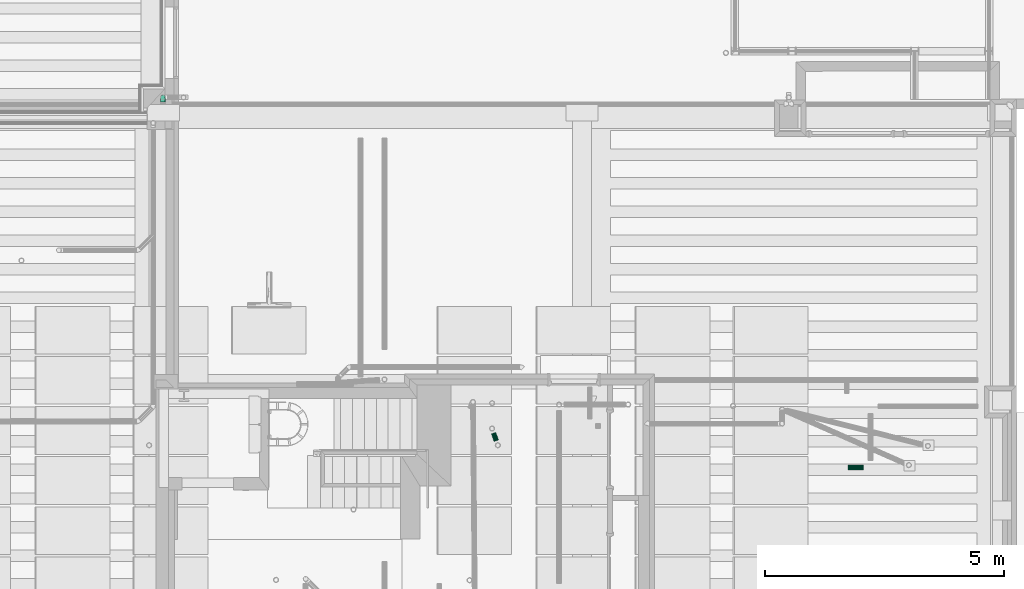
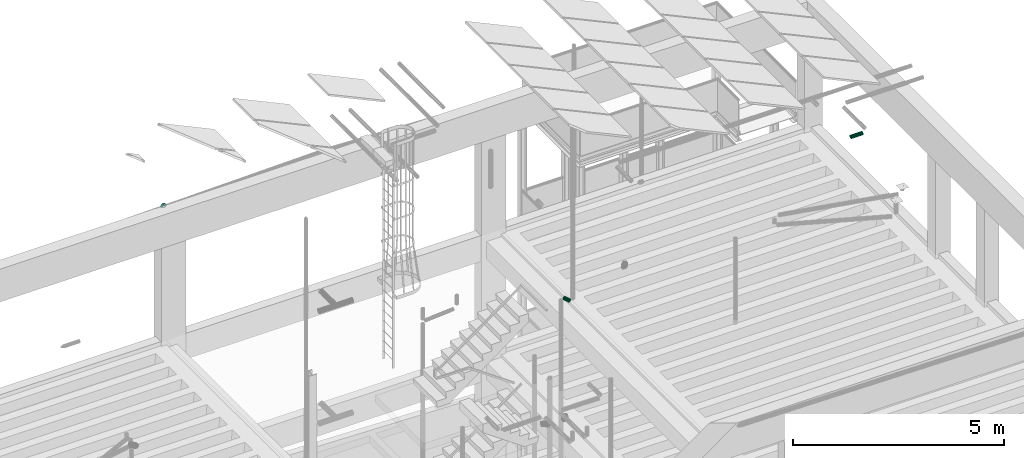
# One storey, part 94 of 108: 2 flow segments, 1 flow fitting.
"""IFC2X3 building model written with IfcOpenShell, lengths in metres."""

from ifc_helpers import new_model, entity, si_unit, converted_unit, derived_unit, money_unit, direction, frame, origin_with_axes, place, context, subcontext, project, spatial, open_shell, faceted_brep, surface_model, material, type_object, element, save


model = new_model("IFC2X3")

# Units and contexts
model_context = context("Model", 3, precision=1e-05, world=origin_with_axes(), true_north=direction((0.0, 1.0)))
body_context = subcontext(model_context, "Body", "Model", "MODEL_VIEW", scale=1.0)
ifc_project = project(units=[si_unit("LENGTHUNIT", "METRE"), si_unit("AREAUNIT", "SQUARE_METRE"), si_unit("VOLUMEUNIT", "CUBIC_METRE"), si_unit("ABSORBEDDOSEUNIT", "GRAY"), si_unit("AMOUNTOFSUBSTANCEUNIT", "MOLE"), si_unit("DOSEEQUIVALENTUNIT", "SIEVERT"), si_unit("ELECTRICCAPACITANCEUNIT", "FARAD"), si_unit("ELECTRICCHARGEUNIT", "COULOMB"), si_unit("ELECTRICCONDUCTANCEUNIT", "SIEMENS"), si_unit("ELECTRICCURRENTUNIT", "AMPERE"), si_unit("ELECTRICRESISTANCEUNIT", "OHM"), si_unit("ELECTRICVOLTAGEUNIT", "VOLT"), si_unit("ENERGYUNIT", "JOULE"), si_unit("FORCEUNIT", "NEWTON"), si_unit("FREQUENCYUNIT", "HERTZ"), si_unit("ILLUMINANCEUNIT", "LUX"), si_unit("INDUCTANCEUNIT", "HENRY"), si_unit("LUMINOUSFLUXUNIT", "LUMEN"), si_unit("LUMINOUSINTENSITYUNIT", "CANDELA"), si_unit("MAGNETICFLUXDENSITYUNIT", "TESLA"), si_unit("MAGNETICFLUXUNIT", "WEBER"), si_unit("MASSUNIT", "GRAM"), converted_unit("PLANEANGLEUNIT", "degree", entity("IfcReal", 0.0174532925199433), si_unit("PLANEANGLEUNIT", "RADIAN"), dimensions=[0, 0, 0, 0, 0, 0, 0]), si_unit("POWERUNIT", "WATT"), si_unit("PRESSUREUNIT", "PASCAL"), si_unit("RADIOACTIVITYUNIT", "BECQUEREL"), si_unit("SOLIDANGLEUNIT", "STERADIAN"), si_unit("THERMODYNAMICTEMPERATUREUNIT", "KELVIN"), si_unit("TIMEUNIT", "SECOND"), derived_unit("ACCELERATIONUNIT", [(si_unit("LENGTHUNIT", "METRE"), 1), (si_unit("TIMEUNIT", "SECOND"), -2)]), derived_unit("ANGULARVELOCITYUNIT", [(converted_unit("PLANEANGLEUNIT", "degree", entity("IfcReal", 0.0174532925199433), si_unit("PLANEANGLEUNIT", "RADIAN"), dimensions=[0, 0, 0, 0, 0, 0, 0]), 1), (si_unit("TIMEUNIT", "SECOND"), -1)]), derived_unit("CURVATUREUNIT", [(converted_unit("PLANEANGLEUNIT", "degree", entity("IfcReal", 0.0174532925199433), si_unit("PLANEANGLEUNIT", "RADIAN"), dimensions=[0, 0, 0, 0, 0, 0, 0]), 1), (si_unit("LENGTHUNIT", "METRE"), -1)]), derived_unit("DYNAMICVISCOSITYUNIT", [(si_unit("PRESSUREUNIT", "PASCAL"), 1), (si_unit("TIMEUNIT", "SECOND"), 1)]), derived_unit("HEATFLUXDENSITYUNIT", [(si_unit("POWERUNIT", "WATT"), 1), (si_unit("LENGTHUNIT", "METRE"), -2)]), derived_unit("HEATINGVALUEUNIT", [(si_unit("ENERGYUNIT", "JOULE"), 1), (si_unit("MASSUNIT", "GRAM"), -1)]), derived_unit("INTEGERCOUNTRATEUNIT", [(si_unit("TIMEUNIT", "SECOND"), -1)]), derived_unit("IONCONCENTRATIONUNIT", [(si_unit("MASSUNIT", "GRAM"), 1), (si_unit("VOLUMEUNIT", "CUBIC_METRE"), -1)]), derived_unit("ISOTHERMALMOISTURECAPACITYUNIT", [(si_unit("VOLUMEUNIT", "CUBIC_METRE"), 1), (si_unit("MASSUNIT", "GRAM"), -1)]), derived_unit("KINEMATICVISCOSITYUNIT", [(si_unit("AREAUNIT", "SQUARE_METRE"), 1), (si_unit("TIMEUNIT", "SECOND"), -1)]), derived_unit("LINEARFORCEUNIT", [(si_unit("FORCEUNIT", "NEWTON"), 1), (si_unit("LENGTHUNIT", "METRE"), -1)]), derived_unit("LINEARMOMENTUNIT", [(si_unit("FORCEUNIT", "NEWTON"), 1), (si_unit("LENGTHUNIT", "METRE"), -1)]), derived_unit("LINEARSTIFFNESSUNIT", [(si_unit("FORCEUNIT", "NEWTON"), 1), (si_unit("LENGTHUNIT", "METRE"), -1)]), derived_unit("LINEARVELOCITYUNIT", [(si_unit("LENGTHUNIT", "METRE"), 1), (si_unit("TIMEUNIT", "SECOND"), -1)]), derived_unit("LUMINOUSINTENSITYDISTRIBUTIONUNIT", [(si_unit("LUMINOUSINTENSITYUNIT", "CANDELA"), 1), (si_unit("LUMINOUSFLUXUNIT", "LUMEN"), -1)]), derived_unit("MASSDENSITYUNIT", [(si_unit("MASSUNIT", "GRAM"), 1), (si_unit("VOLUMEUNIT", "CUBIC_METRE"), -1)]), derived_unit("MASSFLOWRATEUNIT", [(si_unit("MASSUNIT", "GRAM"), 1), (si_unit("TIMEUNIT", "SECOND"), -1)]), derived_unit("MASSPERLENGTHUNIT", [(si_unit("MASSUNIT", "GRAM"), 1), (si_unit("LENGTHUNIT", "METRE"), -1)]), derived_unit("MODULUSOFELASTICITYUNIT", [(si_unit("FORCEUNIT", "NEWTON"), 1), (si_unit("AREAUNIT", "SQUARE_METRE"), -1)]), derived_unit("MODULUSOFLINEARSUBGRADEREACTIONUNIT", [(si_unit("FORCEUNIT", "NEWTON"), 1), (si_unit("LENGTHUNIT", "METRE"), -2)]), derived_unit("MODULUSOFROTATIONALSUBGRADEREACTIONUNIT", [(si_unit("FORCEUNIT", "NEWTON"), 1), (si_unit("LENGTHUNIT", "METRE"), 1)]), derived_unit("MODULUSOFSUBGRADEREACTIONUNIT", [(si_unit("FORCEUNIT", "NEWTON"), 1), (si_unit("VOLUMEUNIT", "CUBIC_METRE"), -1)]), derived_unit("MOISTUREDIFFUSIVITYUNIT", [(si_unit("VOLUMEUNIT", "CUBIC_METRE"), 1), (si_unit("TIMEUNIT", "SECOND"), -1)]), derived_unit("MOLECULARWEIGHTUNIT", [(si_unit("MASSUNIT", "GRAM"), 1), (si_unit("AMOUNTOFSUBSTANCEUNIT", "MOLE"), -1)]), derived_unit("PLANARFORCEUNIT", [(si_unit("FORCEUNIT", "NEWTON"), 1), (si_unit("LENGTHUNIT", "METRE"), -2)]), derived_unit("ROTATIONALFREQUENCYUNIT", [(si_unit("TIMEUNIT", "SECOND"), -1)]), derived_unit("ROTATIONALMASSUNIT", [(si_unit("MASSUNIT", "GRAM"), 1), (si_unit("LENGTHUNIT", "METRE"), 2)]), derived_unit("ROTATIONALSTIFFNESSUNIT", [(si_unit("FORCEUNIT", "NEWTON"), 1), (si_unit("LENGTHUNIT", "METRE"), 1), (converted_unit("PLANEANGLEUNIT", "degree", entity("IfcReal", 0.0174532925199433), si_unit("PLANEANGLEUNIT", "RADIAN"), dimensions=[0, 0, 0, 0, 0, 0, 0]), -1)]), derived_unit("SECTIONAREAINTEGRALUNIT", [(si_unit("LENGTHUNIT", "METRE"), 5)]), derived_unit("SECTIONMODULUSUNIT", [(si_unit("LENGTHUNIT", "METRE"), 3)]), derived_unit("SHEARMODULUSUNIT", [(si_unit("FORCEUNIT", "NEWTON"), 1), (si_unit("AREAUNIT", "SQUARE_METRE"), -1)]), derived_unit("SOUNDPOWERUNIT", [(si_unit("ENERGYUNIT", "JOULE"), 1), (si_unit("TIMEUNIT", "SECOND"), -1)]), derived_unit("SPECIFICHEATCAPACITYUNIT", [(si_unit("FORCEUNIT", "NEWTON"), 1), (si_unit("MASSUNIT", "GRAM"), -1), (si_unit("THERMODYNAMICTEMPERATUREUNIT", "KELVIN"), -1)]), derived_unit("TEMPERATUREGRADIENTUNIT", [(si_unit("THERMODYNAMICTEMPERATUREUNIT", "KELVIN"), 1), (si_unit("LENGTHUNIT", "METRE"), -1)]), derived_unit("THERMALADMITTANCEUNIT", [(si_unit("POWERUNIT", "WATT"), 1), (si_unit("AREAUNIT", "SQUARE_METRE"), -1), (si_unit("THERMODYNAMICTEMPERATUREUNIT", "KELVIN"), -1)]), derived_unit("THERMALCONDUCTANCEUNIT", [(si_unit("POWERUNIT", "WATT"), 1), (si_unit("LENGTHUNIT", "METRE"), -1), (si_unit("THERMODYNAMICTEMPERATUREUNIT", "KELVIN"), -1)]), derived_unit("THERMALEXPANSIONCOEFFICIENTUNIT", [(si_unit("THERMODYNAMICTEMPERATUREUNIT", "KELVIN"), -1)]), derived_unit("THERMALRESISTANCEUNIT", [(si_unit("AREAUNIT", "SQUARE_METRE"), 1), (si_unit("POWERUNIT", "WATT"), -1)]), derived_unit("THERMALTRANSMITTANCEUNIT", [(si_unit("POWERUNIT", "WATT"), 1), (si_unit("AREAUNIT", "SQUARE_METRE"), -1), (si_unit("THERMODYNAMICTEMPERATUREUNIT", "KELVIN"), -1)]), derived_unit("TORQUEUNIT", [(si_unit("FORCEUNIT", "NEWTON"), 1), (si_unit("LENGTHUNIT", "METRE"), 1)]), derived_unit("VAPORPERMEABILITYUNIT", [(si_unit("MASSUNIT", "GRAM"), 1), (si_unit("TIMEUNIT", "SECOND"), -1)]), derived_unit("VOLUMETRICFLOWRATEUNIT", [(si_unit("VOLUMEUNIT", "CUBIC_METRE"), 1), (si_unit("TIMEUNIT", "SECOND"), -1)]), derived_unit("WARPINGCONSTANTUNIT", [(si_unit("LENGTHUNIT", "METRE"), 6)]), derived_unit("WARPINGMOMENTUNIT", [(si_unit("FORCEUNIT", "NEWTON"), 1), (si_unit("LENGTHUNIT", "METRE"), 2)]), money_unit("GBP")], contexts=[model_context])

# Site, building, storey
site_placement = place(None, origin_with_axes())
site = spatial("IfcSite", under=ifc_project, at=site_placement, Name="Site", CompositionType="ELEMENT")
building_placement = place(site_placement, origin_with_axes())
building = spatial("IfcBuilding", under=site, at=building_placement, Name="Building01", CompositionType="ELEMENT")
storey_placement = place(building_placement, origin_with_axes())
storey = spatial("IfcBuildingStorey", under=building, at=storey_placement, Name="GF", CompositionType="ELEMENT", Elevation=0.0)

# Flow segments
ifc_material_1 = material(Name="M_BSUK_Ventilation")
duct_segment_type = type_object("IfcDuctSegmentType", Name="M-RoundDuct", PredefinedType="RIGIDSEGMENT")
flow_segment_1_placement = place(storey_placement, frame((23.78, 7.199939, 17.28), z_axis=(0.0, 0.0, 1.0), x_axis=(-1.0, 0.0, 0.0)))
element("IfcFlowSegment", 1, at=flow_segment_1_placement, inside=storey, type_object=duct_segment_type, material=ifc_material_1, Name="M-RoundDuct", ObjectType="M-RoundDuct", context=body_context, shape_type="Brep", body=[
    faceted_brep([(0.32063, 0.0, -0.05), (0.0, 0.0, -0.05), (0.0, 0.019134, -0.046194), (0.32063, 0.019134, -0.046194), (0.0, 0.035355, -0.035355), (0.32063, 0.035355, -0.035355), (0.0, 0.046194, -0.019134), (0.32063, 0.046194, -0.019134), (0.0, 0.05, 0.0), (0.32063, 0.05, 0.0), (0.0, 0.046194, 0.019134), (0.32063, 0.046194, 0.019134), (0.0, 0.035355, 0.035355), (0.32063, 0.035355, 0.035355), (0.0, 0.019134, 0.046194), (0.32063, 0.019134, 0.046194), (0.0, 0.0, 0.05), (0.32063, 0.0, 0.05), (0.0, -0.019134, 0.046194), (0.32063, -0.019134, 0.046194), (0.0, -0.035355, 0.035355), (0.32063, -0.035355, 0.035355), (0.0, -0.046194, 0.019134), (0.32063, -0.046194, 0.019134), (0.0, -0.05, 0.0), (0.32063, -0.05, 0.0), (0.0, -0.046194, -0.019134), (0.32063, -0.046194, -0.019134), (0.0, -0.035355, -0.035355), (0.32063, -0.035355, -0.035355), (0.0, -0.019134, -0.046194), (0.32063, -0.019134, -0.046194)], [[[0, 1, 2, 3]], [[3, 2, 4, 5]], [[5, 4, 6, 7]], [[7, 6, 8, 9]], [[9, 8, 10, 11]], [[11, 10, 12, 13]], [[13, 12, 14, 15]], [[15, 14, 16, 17]], [[17, 16, 18, 19]], [[19, 18, 20, 21]], [[21, 20, 22, 23]], [[23, 22, 24, 25]], [[25, 24, 26, 27]], [[27, 26, 28, 29]], [[29, 28, 30, 31]], [[31, 30, 1, 0]]]),
])
ifc_material_2 = material(Name="M_BSUK_ColdWater")
pipe_segment_type = type_object("IfcPipeSegmentType", Name="M-BmpStraightpipe-DefaultPipe", PredefinedType="RIGIDSEGMENT")
flow_segment_2_placement = place(storey_placement, frame((16.09237, 7.758319, 14.787509), z_axis=(-0.94641689, -0.32294749, 0.0), x_axis=(-0.32292226, 0.94634296, -0.01249902)))
element("IfcFlowSegment", 2, at=flow_segment_2_placement, inside=storey, type_object=pipe_segment_type, material=ifc_material_2, Name="M-BmpStraightpipe-DefaultPipe", ObjectType="M-BmpStraightpipe-DefaultPipe", context=body_context, shape_type="Brep", body=[
    faceted_brep([(0.172177, 0.0, -0.05), (0.0, 0.0, -0.05), (0.0, 0.019134, -0.046194), (0.172177, 0.019134, -0.046194), (0.0, 0.035355, -0.035355), (0.172177, 0.035355, -0.035355), (0.0, 0.046194, -0.019134), (0.172177, 0.046194, -0.019134), (0.0, 0.05, 0.0), (0.172177, 0.05, 0.0), (0.0, 0.046194, 0.019134), (0.172177, 0.046194, 0.019134), (0.0, 0.035355, 0.035355), (0.172177, 0.035355, 0.035355), (0.0, 0.019134, 0.046194), (0.172177, 0.019134, 0.046194), (0.0, 0.0, 0.05), (0.172177, 0.0, 0.05), (0.0, -0.019134, 0.046194), (0.172177, -0.019134, 0.046194), (0.0, -0.035355, 0.035355), (0.172177, -0.035355, 0.035355), (0.0, -0.046194, 0.019134), (0.172177, -0.046194, 0.019134), (0.0, -0.05, 0.0), (0.172177, -0.05, 0.0), (0.0, -0.046194, -0.019134), (0.172177, -0.046194, -0.019134), (0.0, -0.035355, -0.035355), (0.172177, -0.035355, -0.035355), (0.0, -0.019134, -0.046194), (0.172177, -0.019134, -0.046194)], [[[0, 1, 2, 3]], [[3, 2, 4, 5]], [[5, 4, 6, 7]], [[7, 6, 8, 9]], [[9, 8, 10, 11]], [[11, 10, 12, 13]], [[13, 12, 14, 15]], [[15, 14, 16, 17]], [[17, 16, 18, 19]], [[19, 18, 20, 21]], [[21, 20, 22, 23]], [[23, 22, 24, 25]], [[25, 24, 26, 27]], [[27, 26, 28, 29]], [[29, 28, 30, 31]], [[31, 30, 1, 0]]]),
])

# Flow fitting
pipe_fitting_type = type_object("IfcPipeFittingType", Name="M-BmpElbow-DefaultElbow", PredefinedType="BEND")
flow_fitting_placement = place(storey_placement, frame((9.112744, 14.95, 15.576024), z_axis=(0.0, 1.0, 0.0), x_axis=(0.0, 0.0, -1.0)))
element("IfcFlowFitting", 3, at=flow_fitting_placement, inside=storey, type_object=pipe_fitting_type, material=ifc_material_2, Name="M-BmpElbow-DefaultElbow", ObjectType="M-BmpElbow-DefaultElbow", context=body_context, shape_type="SurfaceModel", body=[
    surface_model("IfcShellBasedSurfaceModel", [(-0.008009, -0.01349, -0.048768), (0.0, -0.01349, -0.048146), (0.0, 0.0, -0.05), (-0.007723, 0.0, -0.0506), (-0.015826, -0.01349, -0.05062), (-0.015261, 0.0, -0.052386), (-0.023264, -0.01349, -0.053657), (-0.022432, 0.0, -0.055314), (-0.030143, -0.01349, -0.057807), (-0.029065, 0.0, -0.059315), (-0.036298, -0.01349, -0.062969), (-0.035, 0.0, -0.064293), (-0.041582, -0.01349, -0.06902), (-0.040095, 0.0, -0.070127), (-0.045868, -0.01349, -0.075814), (-0.044228, 0.0, -0.076679), (-0.049054, -0.01349, -0.083189), (-0.0473, 0.0, -0.08379), (-0.051061, -0.01349, -0.090968), (-0.049236, 0.0, -0.091291), (-0.051844, -0.01349, -0.098963), (-0.04999, 0.0, -0.099), (-0.008847, -0.025979, -0.043408), (0.0, -0.025979, -0.042721), (-0.017482, -0.025979, -0.045454), (-0.025697, -0.025979, -0.048809), (-0.033296, -0.025979, -0.053392), (-0.040095, -0.025979, -0.059095), (-0.045932, -0.025979, -0.065779), (-0.050667, -0.025979, -0.073284), (-0.054185, -0.025979, -0.081431), (-0.056403, -0.025979, -0.090023), (-0.057268, -0.025979, -0.098855), (-0.010175, -0.036542, -0.034918), (0.0, -0.036542, -0.034128), (-0.020105, -0.036542, -0.037271), (-0.029553, -0.036542, -0.041129), (-0.038291, -0.036542, -0.0464), (-0.046111, -0.036542, -0.052958), (-0.052823, -0.036542, -0.060645), (-0.058268, -0.036542, -0.069276), (-0.062315, -0.036542, -0.078645), (-0.064865, -0.036542, -0.088526), (-0.065859, -0.036542, -0.098683), (-0.011893, -0.044394, -0.023927), (0.0, -0.044394, -0.023003), (-0.0235, -0.044394, -0.026677), (-0.034544, -0.044394, -0.031187), (-0.044758, -0.044394, -0.037348), (-0.053898, -0.044394, -0.045013), (-0.061744, -0.044394, -0.053998), (-0.068109, -0.044394, -0.064087), (-0.072838, -0.044394, -0.075038), (-0.07582, -0.044394, -0.086588), (-0.076981, -0.044394, -0.09846), (-0.013875, -0.048954, -0.011251), (0.0, -0.048954, -0.010173), (-0.027416, -0.048954, -0.014459), (-0.0403, -0.048954, -0.01972), (-0.052216, -0.048954, -0.026908), (-0.062879, -0.048954, -0.035851), (-0.072033, -0.048954, -0.046333), (-0.079458, -0.048954, -0.058103), (-0.084976, -0.048954, -0.070879), (-0.088454, -0.048954, -0.084353), (-0.089809, -0.048954, -0.098204), (-0.015973, -0.049883, 0.002171), (0.0, -0.049883, 0.003412), (-0.031562, -0.049883, -0.001522), (-0.046394, -0.049883, -0.007579), (-0.060113, -0.049883, -0.015854), (-0.072389, -0.049883, -0.026149), (-0.082927, -0.049883, -0.038216), (-0.091475, -0.049883, -0.051767), (-0.097827, -0.049883, -0.066475), (-0.101831, -0.049883, -0.081987), (-0.103391, -0.049883, -0.097932), (-0.018032, -0.047113, 0.015343), (0.0, -0.047113, 0.016744), (-0.035632, -0.047113, 0.011174), (-0.052376, -0.047113, 0.004336), (-0.067863, -0.047113, -0.005006), (-0.081721, -0.047113, -0.016628), (-0.093618, -0.047113, -0.030251), (-0.103268, -0.047113, -0.045548), (-0.110439, -0.047113, -0.062153), (-0.114959, -0.047113, -0.079665), (-0.116721, -0.047113, -0.097665), (-0.0199, -0.040848, 0.027288), (0.0, -0.040848, 0.028834), (-0.039322, -0.040848, 0.022687), (-0.0578, -0.040848, 0.015141), (-0.074891, -0.040848, 0.004831), (-0.090184, -0.040848, -0.007994), (-0.103313, -0.040848, -0.023028), (-0.113962, -0.040848, -0.039909), (-0.121876, -0.040848, -0.058233), (-0.126865, -0.040848, -0.077559), (-0.128808, -0.040848, -0.097424), (-0.021437, -0.031554, 0.03712), (0.0, -0.031554, 0.038786), (-0.042359, -0.031554, 0.032163), (-0.062264, -0.031554, 0.024035), (-0.080675, -0.031554, 0.012929), (-0.09715, -0.031554, -0.000887), (-0.111293, -0.031554, -0.017083), (-0.122765, -0.031554, -0.035268), (-0.13129, -0.031554, -0.055007), (-0.136664, -0.031554, -0.075826), (-0.138758, -0.031554, -0.097225), (-0.022529, -0.01992, 0.04411), (0.0, -0.01992, 0.045861), (-0.044518, -0.01992, 0.038901), (-0.065438, -0.01992, 0.030358), (-0.084788, -0.01992, 0.018686), (-0.102103, -0.01992, 0.004165), (-0.116966, -0.01992, -0.012856), (-0.129023, -0.01992, -0.031968), (-0.137983, -0.01992, -0.052713), (-0.143631, -0.01992, -0.074593), (-0.145831, -0.01992, -0.097083), (-0.023097, -0.006808, 0.04774), (0.0, -0.006808, 0.049534), (-0.045639, -0.006808, 0.042399), (-0.067087, -0.006808, 0.033641), (-0.086924, -0.006808, 0.021675), (-0.104674, -0.006808, 0.006789), (-0.119912, -0.006808, -0.010661), (-0.132273, -0.006808, -0.030254), (-0.141458, -0.006808, -0.051522), (-0.147248, -0.006808, -0.073953), (-0.149504, -0.006808, -0.09701), (-0.023097, 0.006808, 0.04774), (0.0, 0.006808, 0.049534), (-0.045639, 0.006808, 0.042399), (-0.067087, 0.006808, 0.033641), (-0.086924, 0.006808, 0.021675), (-0.104674, 0.006808, 0.006789), (-0.119912, 0.006808, -0.010661), (-0.132273, 0.006808, -0.030254), (-0.141458, 0.006808, -0.051522), (-0.147248, 0.006808, -0.073953), (-0.149504, 0.006808, -0.09701), (-0.022529, 0.01992, 0.04411), (0.0, 0.01992, 0.045861), (-0.044518, 0.01992, 0.038901), (-0.065438, 0.01992, 0.030358), (-0.084788, 0.01992, 0.018686), (-0.102103, 0.01992, 0.004165), (-0.116966, 0.01992, -0.012856), (-0.129023, 0.01992, -0.031968), (-0.137983, 0.01992, -0.052713), (-0.143631, 0.01992, -0.074593), (-0.145831, 0.01992, -0.097083), (-0.021437, 0.031554, 0.03712), (0.0, 0.031554, 0.038786), (-0.042359, 0.031554, 0.032163), (-0.062264, 0.031554, 0.024035), (-0.080675, 0.031554, 0.012929), (-0.09715, 0.031554, -0.000887), (-0.111293, 0.031554, -0.017083), (-0.122765, 0.031554, -0.035268), (-0.13129, 0.031554, -0.055007), (-0.136664, 0.031554, -0.075826), (-0.138758, 0.031554, -0.097225), (-0.0199, 0.040848, 0.027288), (0.0, 0.040848, 0.028834), (-0.039322, 0.040848, 0.022687), (-0.0578, 0.040848, 0.015141), (-0.074891, 0.040848, 0.004831), (-0.090184, 0.040848, -0.007994), (-0.103313, 0.040848, -0.023028), (-0.113962, 0.040848, -0.039909), (-0.121876, 0.040848, -0.058233), (-0.126865, 0.040848, -0.077559), (-0.128808, 0.040848, -0.097424), (-0.018032, 0.047113, 0.015343), (0.0, 0.047113, 0.016744), (-0.035632, 0.047113, 0.011174), (-0.052376, 0.047113, 0.004336), (-0.067863, 0.047113, -0.005006), (-0.081721, 0.047113, -0.016628), (-0.093618, 0.047113, -0.030251), (-0.103268, 0.047113, -0.045548), (-0.110439, 0.047113, -0.062153), (-0.114959, 0.047113, -0.079665), (-0.116721, 0.047113, -0.097665), (-0.015973, 0.049883, 0.002171), (0.0, 0.049883, 0.003412), (-0.031562, 0.049883, -0.001522), (-0.046394, 0.049883, -0.007579), (-0.060113, 0.049883, -0.015854), (-0.072389, 0.049883, -0.026149), (-0.082927, 0.049883, -0.038216), (-0.091475, 0.049883, -0.051767), (-0.097827, 0.049883, -0.066475), (-0.101831, 0.049883, -0.081987), (-0.103391, 0.049883, -0.097932), (-0.013875, 0.048954, -0.011251), (0.0, 0.048954, -0.010173), (-0.027416, 0.048954, -0.014459), (-0.0403, 0.048954, -0.01972), (-0.052216, 0.048954, -0.026908), (-0.062879, 0.048954, -0.035851), (-0.072033, 0.048954, -0.046333), (-0.079458, 0.048954, -0.058103), (-0.084976, 0.048954, -0.070879), (-0.088454, 0.048954, -0.084353), (-0.089809, 0.048954, -0.098204), (-0.011893, 0.044394, -0.023927), (0.0, 0.044394, -0.023003), (-0.0235, 0.044394, -0.026677), (-0.034544, 0.044394, -0.031187), (-0.044758, 0.044394, -0.037348), (-0.053898, 0.044394, -0.045013), (-0.061744, 0.044394, -0.053998), (-0.068109, 0.044394, -0.064087), (-0.072838, 0.044394, -0.075038), (-0.07582, 0.044394, -0.086588), (-0.076981, 0.044394, -0.09846), (-0.010175, 0.036542, -0.034918), (0.0, 0.036542, -0.034128), (-0.020105, 0.036542, -0.037271), (-0.029553, 0.036542, -0.041129), (-0.038291, 0.036542, -0.0464), (-0.046111, 0.036542, -0.052958), (-0.052823, 0.036542, -0.060645), (-0.058268, 0.036542, -0.069276), (-0.062315, 0.036542, -0.078645), (-0.064865, 0.036542, -0.088526), (-0.065859, 0.036542, -0.098683), (-0.008847, 0.025979, -0.043408), (0.0, 0.025979, -0.042721), (-0.017482, 0.025979, -0.045454), (-0.025697, 0.025979, -0.048809), (-0.033296, 0.025979, -0.053392), (-0.040095, 0.025979, -0.059095), (-0.045932, 0.025979, -0.065779), (-0.050667, 0.025979, -0.073284), (-0.054185, 0.025979, -0.081431), (-0.056403, 0.025979, -0.090023), (-0.057268, 0.025979, -0.098855), (-0.008009, 0.01349, -0.048768), (0.0, 0.01349, -0.048146), (-0.015826, 0.01349, -0.05062), (-0.023264, 0.01349, -0.053657), (-0.030143, 0.01349, -0.057807), (-0.036298, 0.01349, -0.062969), (-0.041582, 0.01349, -0.06902), (-0.045868, 0.01349, -0.075814), (-0.049054, 0.01349, -0.083189), (-0.051061, 0.01349, -0.090968), (-0.051844, 0.01349, -0.098963)], [open_shell([[[0, 1, 2, 3]], [[4, 0, 3, 5]], [[6, 4, 5, 7]], [[8, 6, 7, 9]], [[10, 8, 9, 11]], [[12, 10, 11, 13]], [[14, 12, 13, 15]], [[16, 14, 15, 17]], [[18, 16, 17, 19]], [[20, 18, 19, 21]], [[22, 23, 1, 0]], [[24, 22, 0, 4]], [[25, 24, 4, 6]], [[26, 25, 6, 8]], [[27, 26, 8, 10]], [[28, 27, 10, 12]], [[29, 28, 12, 14]], [[30, 29, 14, 16]], [[31, 30, 16, 18]], [[32, 31, 18, 20]], [[33, 34, 23, 22]], [[35, 33, 22, 24]], [[36, 35, 24, 25]], [[37, 36, 25, 26]], [[38, 37, 26, 27]], [[39, 38, 27, 28]], [[40, 39, 28, 29]], [[41, 40, 29, 30]], [[42, 41, 30, 31]], [[43, 42, 31, 32]], [[44, 45, 34, 33]], [[46, 44, 33, 35]], [[47, 46, 35, 36]], [[48, 47, 36, 37]], [[49, 48, 37, 38]], [[50, 49, 38, 39]], [[51, 50, 39, 40]], [[52, 51, 40, 41]], [[53, 52, 41, 42]], [[54, 53, 42, 43]], [[55, 56, 45, 44]], [[57, 55, 44, 46]], [[58, 57, 46, 47]], [[59, 58, 47, 48]], [[60, 59, 48, 49]], [[61, 60, 49, 50]], [[62, 61, 50, 51]], [[63, 62, 51, 52]], [[64, 63, 52, 53]], [[65, 64, 53, 54]], [[66, 67, 56, 55]], [[68, 66, 55, 57]], [[69, 68, 57, 58]], [[70, 69, 58, 59]], [[71, 70, 59, 60]], [[72, 71, 60, 61]], [[73, 72, 61, 62]], [[74, 73, 62, 63]], [[75, 74, 63, 64]], [[76, 75, 64, 65]], [[77, 78, 67, 66]], [[79, 77, 66, 68]], [[80, 79, 68, 69]], [[81, 80, 69, 70]], [[82, 81, 70, 71]], [[83, 82, 71, 72]], [[84, 83, 72, 73]], [[85, 84, 73, 74]], [[86, 85, 74, 75]], [[87, 86, 75, 76]], [[88, 89, 78, 77]], [[90, 88, 77, 79]], [[91, 90, 79, 80]], [[92, 91, 80, 81]], [[93, 92, 81, 82]], [[94, 93, 82, 83]], [[95, 94, 83, 84]], [[96, 95, 84, 85]], [[97, 96, 85, 86]], [[98, 97, 86, 87]], [[99, 100, 89, 88]], [[101, 99, 88, 90]], [[102, 101, 90, 91]], [[103, 102, 91, 92]], [[104, 103, 92, 93]], [[105, 104, 93, 94]], [[106, 105, 94, 95]], [[107, 106, 95, 96]], [[108, 107, 96, 97]], [[109, 108, 97, 98]], [[110, 111, 100, 99]], [[112, 110, 99, 101]], [[113, 112, 101, 102]], [[114, 113, 102, 103]], [[115, 114, 103, 104]], [[116, 115, 104, 105]], [[117, 116, 105, 106]], [[118, 117, 106, 107]], [[119, 118, 107, 108]], [[120, 119, 108, 109]], [[121, 122, 111, 110]], [[123, 121, 110, 112]], [[124, 123, 112, 113]], [[125, 124, 113, 114]], [[126, 125, 114, 115]], [[127, 126, 115, 116]], [[128, 127, 116, 117]], [[129, 128, 117, 118]], [[130, 129, 118, 119]], [[131, 130, 119, 120]], [[132, 133, 122, 121]], [[134, 132, 121, 123]], [[135, 134, 123, 124]], [[136, 135, 124, 125]], [[137, 136, 125, 126]], [[138, 137, 126, 127]], [[139, 138, 127, 128]], [[140, 139, 128, 129]], [[141, 140, 129, 130]], [[142, 141, 130, 131]], [[143, 144, 133, 132]], [[145, 143, 132, 134]], [[146, 145, 134, 135]], [[147, 146, 135, 136]], [[148, 147, 136, 137]], [[149, 148, 137, 138]], [[150, 149, 138, 139]], [[151, 150, 139, 140]], [[152, 151, 140, 141]], [[153, 152, 141, 142]], [[154, 155, 144, 143]], [[156, 154, 143, 145]], [[157, 156, 145, 146]], [[158, 157, 146, 147]], [[159, 158, 147, 148]], [[160, 159, 148, 149]], [[161, 160, 149, 150]], [[162, 161, 150, 151]], [[163, 162, 151, 152]], [[164, 163, 152, 153]], [[165, 166, 155, 154]], [[167, 165, 154, 156]], [[168, 167, 156, 157]], [[169, 168, 157, 158]], [[170, 169, 158, 159]], [[171, 170, 159, 160]], [[172, 171, 160, 161]], [[173, 172, 161, 162]], [[174, 173, 162, 163]], [[175, 174, 163, 164]], [[176, 177, 166, 165]], [[178, 176, 165, 167]], [[179, 178, 167, 168]], [[180, 179, 168, 169]], [[181, 180, 169, 170]], [[182, 181, 170, 171]], [[183, 182, 171, 172]], [[184, 183, 172, 173]], [[185, 184, 173, 174]], [[186, 185, 174, 175]], [[187, 188, 177, 176]], [[189, 187, 176, 178]], [[190, 189, 178, 179]], [[191, 190, 179, 180]], [[192, 191, 180, 181]], [[193, 192, 181, 182]], [[194, 193, 182, 183]], [[195, 194, 183, 184]], [[196, 195, 184, 185]], [[197, 196, 185, 186]], [[198, 199, 188, 187]], [[200, 198, 187, 189]], [[201, 200, 189, 190]], [[202, 201, 190, 191]], [[203, 202, 191, 192]], [[204, 203, 192, 193]], [[205, 204, 193, 194]], [[206, 205, 194, 195]], [[207, 206, 195, 196]], [[208, 207, 196, 197]], [[209, 210, 199, 198]], [[211, 209, 198, 200]], [[212, 211, 200, 201]], [[213, 212, 201, 202]], [[214, 213, 202, 203]], [[215, 214, 203, 204]], [[216, 215, 204, 205]], [[217, 216, 205, 206]], [[218, 217, 206, 207]], [[219, 218, 207, 208]], [[220, 221, 210, 209]], [[222, 220, 209, 211]], [[223, 222, 211, 212]], [[224, 223, 212, 213]], [[225, 224, 213, 214]], [[226, 225, 214, 215]], [[227, 226, 215, 216]], [[228, 227, 216, 217]], [[229, 228, 217, 218]], [[230, 229, 218, 219]], [[231, 232, 221, 220]], [[233, 231, 220, 222]], [[234, 233, 222, 223]], [[235, 234, 223, 224]], [[236, 235, 224, 225]], [[237, 236, 225, 226]], [[238, 237, 226, 227]], [[239, 238, 227, 228]], [[240, 239, 228, 229]], [[241, 240, 229, 230]], [[242, 243, 232, 231]], [[244, 242, 231, 233]], [[245, 244, 233, 234]], [[246, 245, 234, 235]], [[247, 246, 235, 236]], [[248, 247, 236, 237]], [[249, 248, 237, 238]], [[250, 249, 238, 239]], [[251, 250, 239, 240]], [[252, 251, 240, 241]], [[3, 2, 243, 242]], [[5, 3, 242, 244]], [[7, 5, 244, 245]], [[9, 7, 245, 246]], [[11, 9, 246, 247]], [[13, 11, 247, 248]], [[15, 13, 248, 249]], [[17, 15, 249, 250]], [[19, 17, 250, 251]], [[21, 19, 251, 252]]])]),
])

save(model, "model.ifc")
